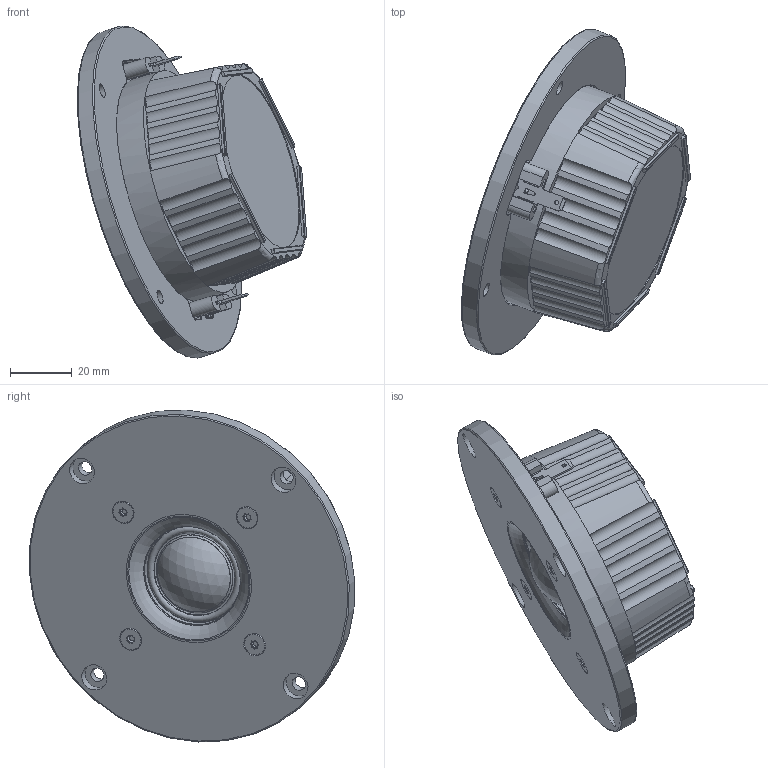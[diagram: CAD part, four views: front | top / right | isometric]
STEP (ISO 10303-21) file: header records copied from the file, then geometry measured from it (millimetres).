
FILE_DESCRIPTION(/* description */ (''),/* implementation_level */ '2;1');
FILE_NAME(/* name */ 'F:\Files\Speakdta\WEB\3D-filer til WEB\E0011_T25CF002.stp',/* time_stamp */ '2023-11-09T14:44:26+01:00',/* author */ ('svein'),/* organization */ (''),/* preprocessor_version */ 'ST-DEVELOPER v18.1',/* originating_system */ 'Autodesk Inventor 2022',/* authorisation */ '');
FILE_SCHEMA (('CONFIG_CONTROL_DESIGN'));
Length unit declared in the file: millimetre
Products named in the file (1): E0011_Simplify_1
Bounding box: 74.05 x 105.07 x 107.19 mm (x, y, z)
Volume: 174353.5 mm3; surface area: 48179.1 mm2
Topology: 1 solids, 1 shells, 618 faces, 1623 edges, 1013 vertices
Faces by surface type: plane 312, cylinder 207, torus 37, cone 36, bspline 24, sphere 2
Full cylindrical faces by diameter (mm): 1.4 x2, 3.9 x4, 4.2 x4, 4.3 x4, 4.5 x8, 5 x1, 7.3 x4, 7.5 x4, 8.5 x4, 25.1 x1, 26.26 x1, 33 x3, 38 x1, 58 x1, 70.2 x1, 74.5 x1, 110 x1
Entity records: 20486 total; most frequent: CARTESIAN_POINT 4187, DIRECTION 3349, ORIENTED_EDGE 3246, EDGE_CURVE 1623, AXIS2_PLACEMENT_3D 1211, VERTEX_POINT 1013, LINE 927, VECTOR 927
